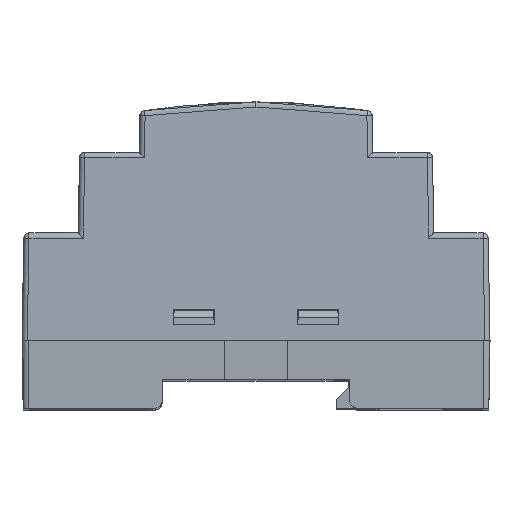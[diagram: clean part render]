
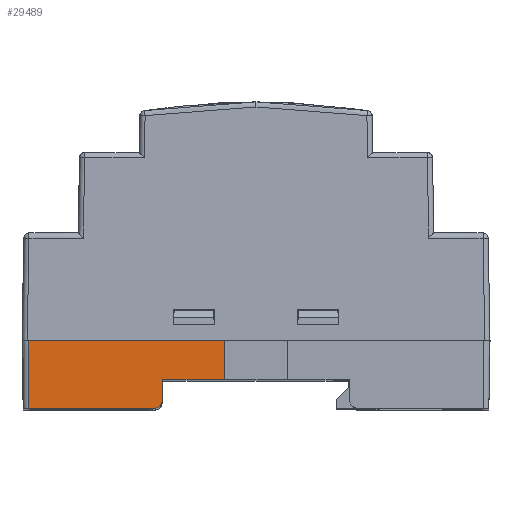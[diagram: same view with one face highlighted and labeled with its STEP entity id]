
A CAD part, top view. The second image highlights one B-rep face of the part: STEP entity #29489.
In plain terms, the highlighted planar face has unit normal (0, -0.018, 1).
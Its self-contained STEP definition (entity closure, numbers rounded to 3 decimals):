
#515 = EDGE_CURVE ( 'NONE', #18927, #35714, #11097, .T. ) ;
#4167 = CARTESIAN_POINT ( 'NONE',  ( -43.75, 0., 106.05 ) ) ;
#4559 = VERTEX_POINT ( 'NONE', #4167 ) ;
#5322 = PLANE ( 'NONE',  #44697 ) ;
#5506 = LINE ( 'NONE', #77827, #16175 ) ;
#5882 = CARTESIAN_POINT ( 'NONE',  ( -19.52, -13.1, 105.821 ) ) ;
#6924 = EDGE_CURVE ( 'NONE', #4559, #18927, #78312, .T. ) ;
#8055 = CARTESIAN_POINT ( 'NONE',  ( 45., -7.6, 105.917 ) ) ;
#11097 = LINE ( 'NONE', #61866, #42121 ) ;
#11371 = DIRECTION ( 'NONE',  ( 0., -1., -0.017 ) ) ;
#16175 = VECTOR ( 'NONE', #18483, 1000. ) ;
#16422 = CARTESIAN_POINT ( 'NONE',  ( -18.035, -12.493, 105.832 ) ) ;
#16438 = CARTESIAN_POINT ( 'NONE',  ( -43.75, -13.1, 105.821 ) ) ;
#18483 = DIRECTION ( 'NONE',  ( -0.017, -1., -0.017 ) ) ;
#18927 = VERTEX_POINT ( 'NONE', #16438 ) ;
#19013 = ORIENTED_EDGE ( 'NONE', *, *, #28173, .T. ) ;
#21413 = CARTESIAN_POINT ( 'NONE',  ( 45., 0., 106.05 ) ) ;
#24964 = DIRECTION ( 'NONE',  ( 0., -1., -0.017 ) ) ;
#27136 = ORIENTED_EDGE ( 'NONE', *, *, #39547, .F. ) ;
#27678 = VERTEX_POINT ( 'NONE', #47118 ) ;
#28173 = EDGE_CURVE ( 'NONE', #35714, #33607, #59281, .T. ) ;
#29489 = ADVANCED_FACE ( 'NONE', ( #50562 ), #5322, .T. ) ;
#33051 = LINE ( 'NONE', #21413, #64113 ) ;
#33607 = VERTEX_POINT ( 'NONE', #37494 ) ;
#35714 = VERTEX_POINT ( 'NONE', #5882 ) ;
#37494 = CARTESIAN_POINT ( 'NONE',  ( -18.02, -11.626, 105.847 ) ) ;
#39436 = EDGE_CURVE ( 'NONE', #27678, #83601, #73547, .T. ) ;
#39547 = EDGE_CURVE ( 'NONE', #83839, #33607, #5506, .T. ) ;
#39584 = CARTESIAN_POINT ( 'NONE',  ( -43.75, 0., 106.05 ) ) ;
#40499 = EDGE_CURVE ( 'NONE', #4559, #27678, #33051, .T. ) ;
#42121 = VECTOR ( 'NONE', #82147, 1000. ) ;
#42789 = EDGE_CURVE ( 'NONE', #83839, #83601, #73921, .T. ) ;
#43100 = CARTESIAN_POINT ( 'NONE',  ( -17.95, -7.6, 105.917 ) ) ;
#44697 = AXIS2_PLACEMENT_3D ( 'NONE', #76792, #77207, #11371 ) ;
#45667 = CARTESIAN_POINT ( 'NONE',  ( -18.02, -11.626, 105.847 ) ) ;
#47118 = CARTESIAN_POINT ( 'NONE',  ( -5.984, 0., 106.05 ) ) ;
#49145 = CARTESIAN_POINT ( 'NONE',  ( -19.52, -13.1, 105.821 ) ) ;
#50562 = FACE_OUTER_BOUND ( 'NONE', #51578, .T. ) ;
#51578 = EDGE_LOOP ( 'NONE', ( #83069, #19013, #27136, #67064, #57097, #63757, #63992 ) ) ;
#54149 = DIRECTION ( 'NONE',  ( 1., 0., 0. ) ) ;
#55508 = CARTESIAN_POINT ( 'NONE',  ( -5.98, 0.445, 106.058 ) ) ;
#57097 = ORIENTED_EDGE ( 'NONE', *, *, #39436, .F. ) ;
#59281 =( BOUNDED_CURVE ( )  B_SPLINE_CURVE ( 3, ( #49145, #75344, #16422, #45667 ),
 .UNSPECIFIED., .F., .F. ) 
 B_SPLINE_CURVE_WITH_KNOTS ( ( 4, 4 ),
 ( 0., 1.553 ),
 .UNSPECIFIED. ) 
 CURVE ( )  GEOMETRIC_REPRESENTATION_ITEM ( )  RATIONAL_B_SPLINE_CURVE ( ( 1., 0.809, 0.809, 1. ) ) 
 REPRESENTATION_ITEM ( '' )  );
#61866 = CARTESIAN_POINT ( 'NONE',  ( -45., -13.1, 105.821 ) ) ;
#61918 = DIRECTION ( 'NONE',  ( -0.009, -1., -0.017 ) ) ;
#62840 = VECTOR ( 'NONE', #61918, 1000. ) ;
#63757 = ORIENTED_EDGE ( 'NONE', *, *, #40499, .F. ) ;
#63992 = ORIENTED_EDGE ( 'NONE', *, *, #6924, .T. ) ;
#64113 = VECTOR ( 'NONE', #74328, 1000. ) ;
#67020 = VECTOR ( 'NONE', #54149, 1000. ) ;
#67064 = ORIENTED_EDGE ( 'NONE', *, *, #42789, .T. ) ;
#71936 = CARTESIAN_POINT ( 'NONE',  ( -6.05, -7.6, 105.917 ) ) ;
#73547 = LINE ( 'NONE', #55508, #62840 ) ;
#73921 = LINE ( 'NONE', #8055, #67020 ) ;
#74328 = DIRECTION ( 'NONE',  ( 1., 0., 0. ) ) ;
#75344 = CARTESIAN_POINT ( 'NONE',  ( -18.653, -13.1, 105.821 ) ) ;
#76792 = CARTESIAN_POINT ( 'NONE',  ( 45., 0., 106.05 ) ) ;
#77207 = DIRECTION ( 'NONE',  ( 0., -0.017, 1. ) ) ;
#77827 = CARTESIAN_POINT ( 'NONE',  ( -17.798, 1.096, 106.069 ) ) ;
#78312 = LINE ( 'NONE', #39584, #79883 ) ;
#79883 = VECTOR ( 'NONE', #24964, 1000. ) ;
#82147 = DIRECTION ( 'NONE',  ( 1., 0., 0. ) ) ;
#83069 = ORIENTED_EDGE ( 'NONE', *, *, #515, .T. ) ;
#83601 = VERTEX_POINT ( 'NONE', #71936 ) ;
#83839 = VERTEX_POINT ( 'NONE', #43100 ) ;
